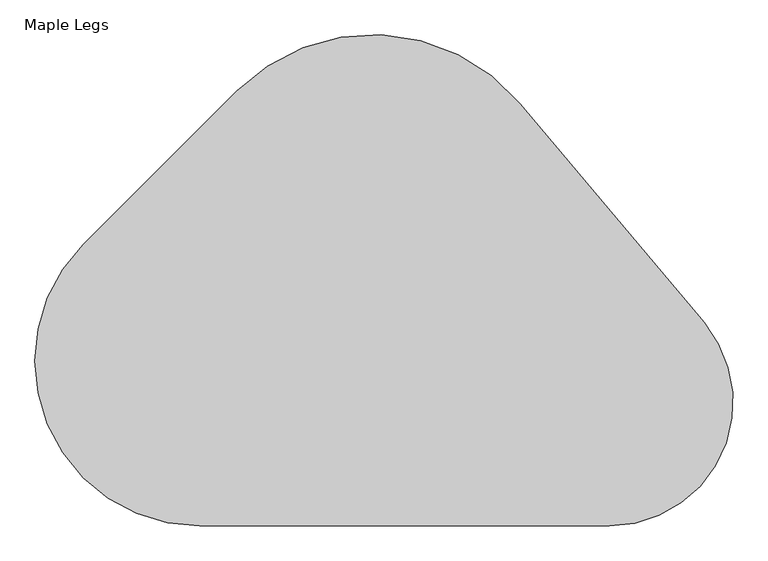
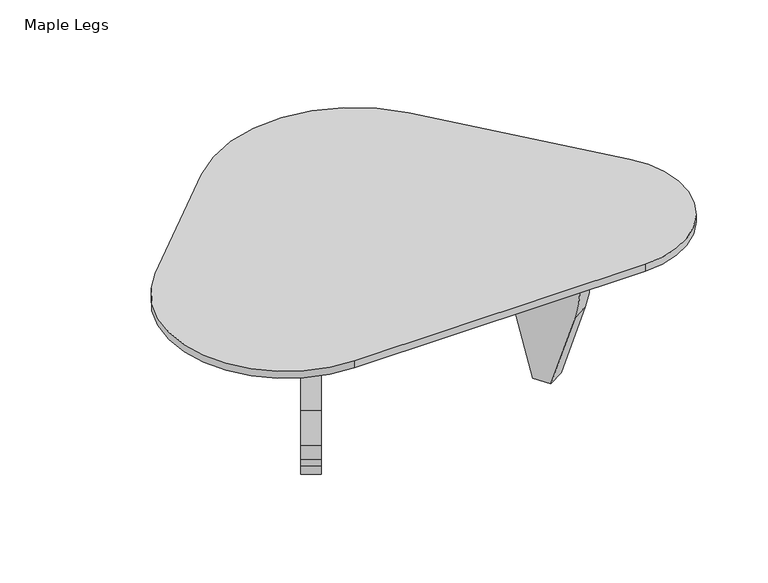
"""IFC4 building model written with IfcOpenShell, lengths in millimetres: furniture geometry, Noguchi Table : Maple Legs."""

from ifc_helpers import new_model, si_unit, point, frame, frame_2d, origin, place, context, project, spatial, polyline, circle_curve, trimmed, segment, composite_curve, outline, extrude, source, transform, mapped, element, save


def maple_legs_126f5b07(model_context):
    return source(origin(), model_context, "Body", "SweptSolid", [
        extrude(outline(composite_curve([segment(polyline([(-616.1982593, 166.2408792), (-332.9683375, 449.470801)]), True, "CONTINUOUS"), segment(trimmed(circle_curve(frame_2d((-81.5211661, 198.0236296)), 355.6), [point((-332.9683375, 449.470801))], [point((190.8842378, 426.5989036))], False, "CARTESIAN"), True, "CONTINUOUS"), segment(polyline([(190.8842378, 426.5989036), (530.8395157, 21.4559798)]), True, "CONTINUOUS"), segment(trimmed(circle_curve(frame_2d((355.721756, -125.4852677)), 228.6), [point((530.8395157, 21.4559798))], [point((355.721756, -354.0852677))], False, "CARTESIAN"), True, "CONTINUOUS"), segment(polyline([(355.721756, -354.0852677), (-400.6721124, -354.0852677)]), True, "CONTINUOUS"), segment(trimmed(circle_curve(frame_2d((-400.6721124, -49.2852677)), 304.8), [point((-400.6721124, -354.0852677))], [point((-616.1982593, 166.2408792))], False, "CARTESIAN"), True, "CONTINUOUS")], self_intersect=False)), frame((0.0, 0.0, 387.35), z_axis=(0.0, 0.0, 1.0), x_axis=(1.0, 0.0, 0.0)), (0.0, 0.0, 1.0), 19.05),
        extrude(outline(composite_curve([segment(trimmed(circle_curve(frame_2d((0.0, -292.1)), 292.1), [point((-85.401775, -12.7633808))], [point((0.0, 0.0))], False, "CARTESIAN"), True, "CONTINUOUS"), segment(polyline([(0.0, 0.0), (38.515049, 0.0)]), True, "CONTINUOUS"), segment(trimmed(circle_curve(frame_2d((38.515049, -44.45)), 44.45), [point((38.515049, 0.0))], [point((60.740049, -5.9551709))], False, "CARTESIAN"), True, "CONTINUOUS"), segment(polyline([(60.740049, -5.9551709), (99.9621328, -28.6000515), (99.9621328, -759.2112915), (61.6824096, -776.3453752)]), True, "CONTINUOUS"), segment(trimmed(circle_curve(frame_2d((46.368836, -742.1329034)), 37.4833132), [point((61.6824096, -776.3453752))], [point((46.368836, -779.6162166))], False, "CARTESIAN"), True, "CONTINUOUS"), segment(polyline([(46.368836, -779.6162166), (25.3127237, -779.6162166)]), True, "CONTINUOUS"), segment(trimmed(circle_curve(frame_2d((25.3127237, -684.3662165)), 95.25), [point((25.3127237, -779.6162166))], [point((-29.3204318, -762.3904488))], False, "CARTESIAN"), True, "CONTINUOUS"), segment(polyline([(-29.3204318, -762.3904488), (-93.5973313, -717.3832793), (-93.5973313, -679.2832792), (-37.9691113, -612.9881482)]), True, "CONTINUOUS"), segment(trimmed(circle_curve(frame_2d((-149.8499022, -519.1090178)), 146.05), [point((-37.9691113, -612.9881482))], [point((-3.7999022, -519.1090178))], True, "CARTESIAN"), True, "CONTINUOUS"), segment(polyline([(-3.7999022, -519.1090178), (-3.7999022, -289.2152929)]), True, "CONTINUOUS"), segment(trimmed(circle_curve(frame_2d((-124.4499022, -289.2152929)), 120.65), [point((-3.7999022, -289.2152929))], [point((-93.2233844, -172.6763419))], True, "CARTESIAN"), True, "CONTINUOUS"), segment(polyline([(-93.2233844, -172.6763419), (-287.3878672, -120.6501256), (-287.3878672, -74.5167265), (-85.401775, -12.7633808)]), True, "CONTINUOUS")], self_intersect=False)), frame((267.2461488, -214.3653004, 287.3878672), z_axis=(0.8480480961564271, 0.5299192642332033, 0.0), x_axis=(0.0, 0.0, 1.0)), (0.0, 0.0, 1.0), 48.5804754),
        extrude(outline(composite_curve([segment(trimmed(circle_curve(frame_2d((0.0, -292.1)), 292.1), [point((85.401775, -571.4366192))], [point((0.0, -584.2))], False, "CARTESIAN"), True, "CONTINUOUS"), segment(polyline([(0.0, -584.2), (-38.515049, -584.2)]), True, "CONTINUOUS"), segment(trimmed(circle_curve(frame_2d((-38.515049, -539.75)), 44.45), [point((-38.515049, -584.2))], [point((-60.740049, -578.2448292))], False, "CARTESIAN"), True, "CONTINUOUS"), segment(polyline([(-60.740049, -578.2448292), (-99.9621328, -555.5999486), (-99.9621328, 175.0112914), (-61.6824096, 192.1453752)]), True, "CONTINUOUS"), segment(trimmed(circle_curve(frame_2d((-46.368836, 157.9329033)), 37.4833132), [point((-61.6824096, 192.1453752))], [point((-46.368836, 195.4162165))], False, "CARTESIAN"), True, "CONTINUOUS"), segment(polyline([(-46.368836, 195.4162165), (-25.3127237, 195.4162165)]), True, "CONTINUOUS"), segment(trimmed(circle_curve(frame_2d((-25.3127237, 100.1662165)), 95.25), [point((-25.3127237, 195.4162165))], [point((29.3204318, 178.1904487))], False, "CARTESIAN"), True, "CONTINUOUS"), segment(polyline([(29.3204318, 178.1904487), (93.5973313, 133.1832792), (93.5973313, 95.0832791), (37.9691113, 28.7881481)]), True, "CONTINUOUS"), segment(trimmed(circle_curve(frame_2d((149.8499022, -65.0909823)), 146.05), [point((37.9691113, 28.7881481))], [point((3.7999022, -65.0909823))], True, "CARTESIAN"), True, "CONTINUOUS"), segment(polyline([(3.7999022, -65.0909823), (3.7999022, -291.9391371)]), True, "CONTINUOUS"), segment(trimmed(circle_curve(frame_2d((124.4499022, -291.9391371)), 120.65), [point((3.7999022, -291.9391371))], [point((93.2233844, -408.4780881))], True, "CARTESIAN"), True, "CONTINUOUS"), segment(polyline([(93.2233844, -408.4780881), (287.3878672, -460.5043044), (287.3878672, -509.6832736), (85.401775, -571.4366192)]), True, "CONTINUOUS")], self_intersect=False)), frame((-118.8687691, 281.4236, 99.9621328), z_axis=(-0.8660254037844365, 0.5000000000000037, 0.0), x_axis=(0.0, 0.0, 1.0)), (0.0, 0.0, 1.0), 46.6647559),
    ])


if __name__ == "__main__":
    model = new_model("IFC4")
    model_context = context("Model", 3, world=origin())
    ifc_project = project(units=[si_unit("LENGTHUNIT", "METRE", prefix="MILLI")], contexts=[model_context])
    site = spatial("IfcSite", under=ifc_project)
    building = spatial("IfcBuilding", under=site)
    placement = place(None, origin())
    maple_legs_shape = maple_legs_126f5b07(model_context)
    element("IfcFurniture", 1, ObjectType="Noguchi Table : Maple Legs", at=placement, inside=building, context=model_context, shape_type="MappedRepresentation", body=[
        mapped(maple_legs_shape, transform((0.0, 0.0, 0.0), x_axis=(1.0, 0.0, 0.0), y_axis=(0.0, 1.0, 0.0), z_axis=(0.0, 0.0, 1.0))),
    ])
    save(model, "model.ifc")
